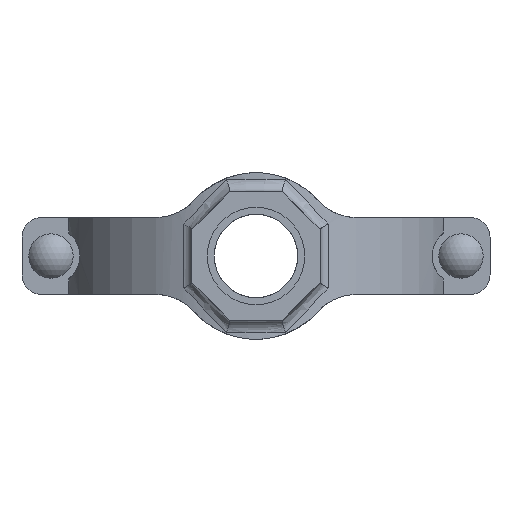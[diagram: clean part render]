
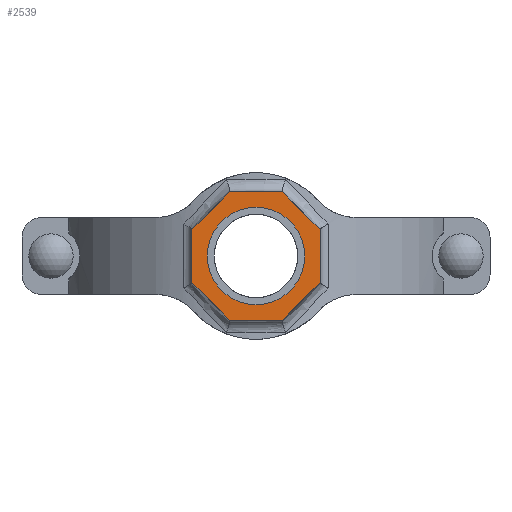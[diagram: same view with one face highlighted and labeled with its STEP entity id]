
A CAD part, front view. The second image highlights one B-rep face of the part: STEP entity #2539.
In plain terms, the highlighted planar face has unit normal (0, -1, 0) as drawn and (0, 1, 0) by its records, which use the part's own axes.
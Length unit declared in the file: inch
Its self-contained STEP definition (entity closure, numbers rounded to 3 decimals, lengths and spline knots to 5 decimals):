
#186=FACE_BOUND('',#459,.T.);
#307=FACE_OUTER_BOUND('',#458,.T.);
#458=EDGE_LOOP('',(#2138,#2139,#2140,#2141,#2142,#2143,#2144,#2145));
#459=EDGE_LOOP('',(#2146));
#594=LINE('',#4685,#780);
#597=LINE('',#4690,#783);
#599=LINE('',#4694,#785);
#601=LINE('',#4698,#787);
#641=LINE('',#5147,#827);
#643=LINE('',#5151,#829);
#645=LINE('',#5155,#831);
#647=LINE('',#5158,#833);
#780=VECTOR('',#3278,0.3937);
#783=VECTOR('',#3283,0.3937);
#785=VECTOR('',#3287,0.3937);
#787=VECTOR('',#3291,0.3937);
#827=VECTOR('',#3427,0.3937);
#829=VECTOR('',#3431,0.3937);
#831=VECTOR('',#3435,0.3937);
#833=VECTOR('',#3439,0.3937);
#919=CIRCLE('',#2802,0.95);
#1097=VERTEX_POINT('',#4682);
#1098=VERTEX_POINT('',#4684);
#1099=VERTEX_POINT('',#4688);
#1100=VERTEX_POINT('',#4692);
#1101=VERTEX_POINT('',#4696);
#1136=VERTEX_POINT('',#4992);
#1160=VERTEX_POINT('',#5146);
#1161=VERTEX_POINT('',#5150);
#1162=VERTEX_POINT('',#5154);
#1408=EDGE_CURVE('',#1098,#1097,#594,.T.);
#1411=EDGE_CURVE('',#1097,#1099,#597,.T.);
#1413=EDGE_CURVE('',#1099,#1100,#599,.T.);
#1415=EDGE_CURVE('',#1100,#1101,#601,.T.);
#1461=EDGE_CURVE('',#1136,#1136,#919,.T.);
#1495=EDGE_CURVE('',#1160,#1098,#641,.T.);
#1497=EDGE_CURVE('',#1161,#1160,#643,.T.);
#1499=EDGE_CURVE('',#1162,#1161,#645,.T.);
#1501=EDGE_CURVE('',#1101,#1162,#647,.T.);
#2138=ORIENTED_EDGE('',*,*,#1501,.T.);
#2139=ORIENTED_EDGE('',*,*,#1499,.T.);
#2140=ORIENTED_EDGE('',*,*,#1497,.T.);
#2141=ORIENTED_EDGE('',*,*,#1495,.T.);
#2142=ORIENTED_EDGE('',*,*,#1408,.T.);
#2143=ORIENTED_EDGE('',*,*,#1411,.T.);
#2144=ORIENTED_EDGE('',*,*,#1413,.T.);
#2145=ORIENTED_EDGE('',*,*,#1415,.T.);
#2146=ORIENTED_EDGE('',*,*,#1461,.T.);
#2280=PLANE('',#2825);
#2539=ADVANCED_FACE('',(#307,#186),#2280,.T.);
#2802=AXIS2_PLACEMENT_3D('',#4993,#3369,#3370);
#2825=AXIS2_PLACEMENT_3D('',#5159,#3440,#3441);
#3278=DIRECTION('',(0.,0.,1.));
#3283=DIRECTION('',(0.707,0.,0.707));
#3287=DIRECTION('',(1.,0.,0.));
#3291=DIRECTION('',(0.707,0.,-0.707));
#3369=DIRECTION('center_axis',(0.,-1.,0.));
#3370=DIRECTION('ref_axis',(-1.,0.,0.));
#3427=DIRECTION('',(-0.707,0.,0.707));
#3431=DIRECTION('',(-1.,0.,0.));
#3435=DIRECTION('',(-0.707,0.,-0.707));
#3439=DIRECTION('',(0.,0.,-1.));
#3440=DIRECTION('center_axis',(0.,1.,0.));
#3441=DIRECTION('ref_axis',(0.,0.,1.));
#4682=CARTESIAN_POINT('',(-1.25,5.13,0.51777));
#4684=CARTESIAN_POINT('',(-1.25,5.13,-0.51777));
#4685=CARTESIAN_POINT('',(-1.25,5.13,0.51777));
#4688=CARTESIAN_POINT('',(-0.51777,5.13,1.25));
#4690=CARTESIAN_POINT('',(-0.51777,5.13,1.25));
#4692=CARTESIAN_POINT('',(0.51777,5.13,1.25));
#4694=CARTESIAN_POINT('',(0.51777,5.13,1.25));
#4696=CARTESIAN_POINT('',(1.25,5.13,0.51777));
#4698=CARTESIAN_POINT('',(1.25,5.13,0.51777));
#4992=CARTESIAN_POINT('',(0.95,5.13,0.));
#4993=CARTESIAN_POINT('Origin',(0.,5.13,0.));
#5146=CARTESIAN_POINT('',(-0.51777,5.13,-1.25));
#5147=CARTESIAN_POINT('',(-1.25,5.13,-0.51777));
#5150=CARTESIAN_POINT('',(0.51777,5.13,-1.25));
#5151=CARTESIAN_POINT('',(-0.51777,5.13,-1.25));
#5154=CARTESIAN_POINT('',(1.25,5.13,-0.51777));
#5155=CARTESIAN_POINT('',(0.51777,5.13,-1.25));
#5158=CARTESIAN_POINT('',(1.25,5.13,-0.51777));
#5159=CARTESIAN_POINT('Origin',(0.,5.13,0.));
